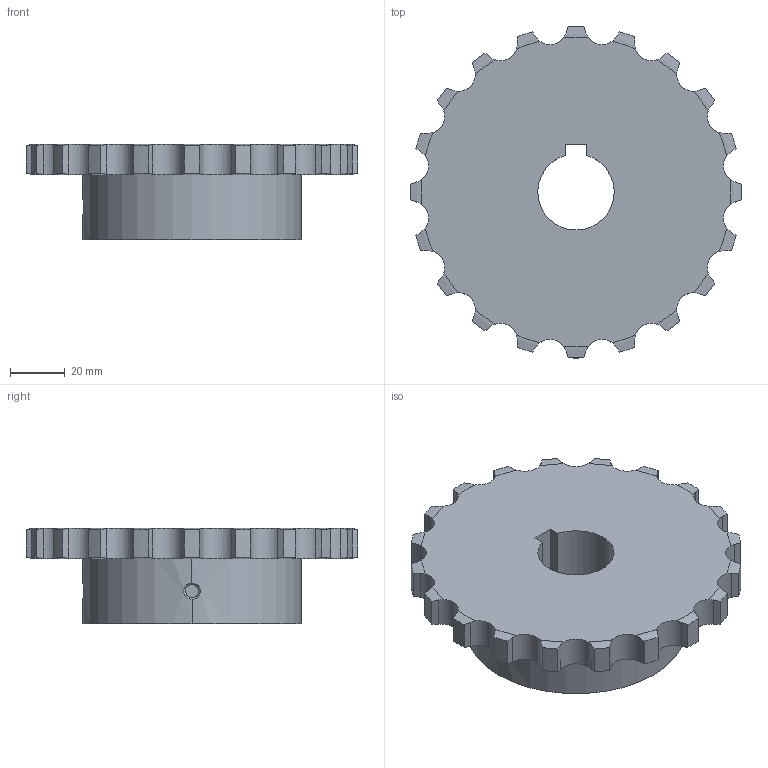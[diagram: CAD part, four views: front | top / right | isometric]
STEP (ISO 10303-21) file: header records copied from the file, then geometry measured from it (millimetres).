
FILE_DESCRIPTION((''),'2;1');
FILE_NAME('510-401-2820_PRT','2021-02-13T',('Brieden'),('Brieden'),'PRO/ENGINEER BY PARAMETRIC TECHNOLOGY CORPORATION, 2010160','PRO/ENGINEER BY PARAMETRIC TECHNOLOGY CORPORATION, 2010160','');
FILE_SCHEMA(('AUTOMOTIVE_DESIGN { 1 0 10303 214 1 1 1 1 }'));
Length unit declared in the file: millimetre
Products named in the file (1): 510-401-2820_PRT
Bounding box: 121.76 x 121.76 x 35 mm (x, y, z)
Volume: 213364 mm3; surface area: 34750.8 mm2
Topology: 1 solids, 1 shells, 141 faces, 405 edges, 268 vertices
Faces by surface type: cylinder 87, torus 40, plane 8, bspline 6
Entity records: 6844 total; most frequent: CARTESIAN_POINT 2093, ORIENTED_EDGE 810, DIRECTION 633, PRESENTATION_STYLE_ASSIGNMENT 406, STYLED_ITEM 406, CURVE_STYLE 405, EDGE_CURVE 405, VERTEX_POINT 268
